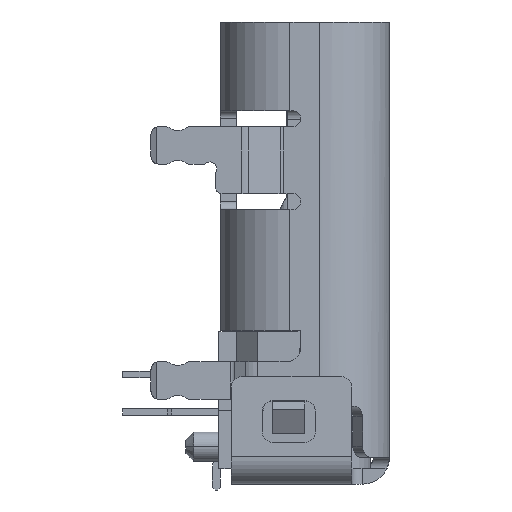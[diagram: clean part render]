
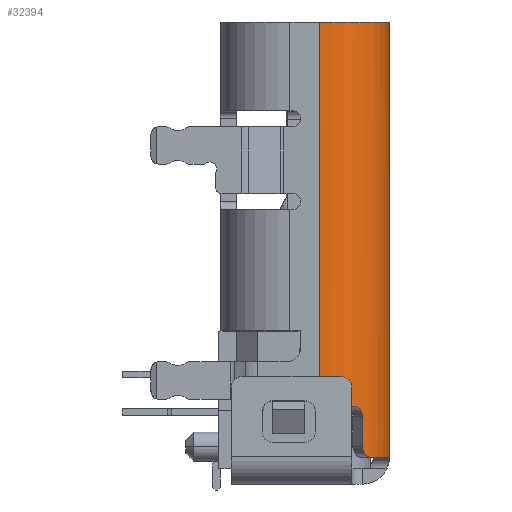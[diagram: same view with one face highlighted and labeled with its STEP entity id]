
A CAD part, left-side view. The second image highlights one B-rep face of the part: STEP entity #32394.
In plain terms, the highlighted cylindrical face has radius 1.3 mm (diameter 2.6 mm), a partial arc.
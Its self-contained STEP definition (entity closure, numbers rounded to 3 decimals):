
#6483=CARTESIAN_POINT('',(34.621,0.614,20.119));
#6484=DIRECTION('',(0.,0.,-1.));
#6485=DIRECTION('',(0.,-1.,0.));
#6486=AXIS2_PLACEMENT_3D('',#6483,#6484,#6485);
#8875=CARTESIAN_POINT('',(33.321,0.614,12.729));
#8876=CARTESIAN_POINT('',(33.321,0.614,12.747));
#8877=CARTESIAN_POINT('',(33.321,0.61,12.781));
#8878=CARTESIAN_POINT('',(33.321,0.589,12.831));
#8879=CARTESIAN_POINT('',(33.322,0.557,12.873));
#8880=CARTESIAN_POINT('',(33.325,0.515,12.905));
#8881=CARTESIAN_POINT('',(33.329,0.466,12.925));
#8882=CARTESIAN_POINT('',(33.334,0.432,12.929));
#8883=CARTESIAN_POINT('',(33.337,0.414,12.929));
#8885=CARTESIAN_POINT('',(34.621,0.614,12.929));
#8886=DIRECTION('',(0.,0.,1.));
#8887=DIRECTION('',(-0.988,-0.154,0.));
#8888=AXIS2_PLACEMENT_3D('',#8885,#8886,#8887);
#8899=DIRECTION('',(0.,0.,1.));
#8900=VECTOR('',#8899,0.549);
#8901=CARTESIAN_POINT('',(33.596,-0.186,
12.18));
#8902=LINE('',#8901,#8900);
#8903=DIRECTION('',(0.,0.,1.));
#8904=VECTOR('',#8903,7.39);
#8905=CARTESIAN_POINT('',(33.321,0.614,12.729));
#8906=LINE('',#8905,#8904);
#8907=DIRECTION('',(0.,0.,-1.));
#8908=VECTOR('',#8907,8.15);
#8909=CARTESIAN_POINT('',(34.621,-0.686,
20.119));
#8910=LINE('',#8909,#8908);
#8911=CARTESIAN_POINT('',(34.621,-0.686,
11.969));
#8912=CARTESIAN_POINT('',(34.618,-0.686,
11.968));
#8913=CARTESIAN_POINT('',(34.613,-0.686,
11.964));
#8914=CARTESIAN_POINT('',(34.605,-0.686,
11.959));
#8915=CARTESIAN_POINT('',(34.6,-0.686,
11.956));
#8916=CARTESIAN_POINT('',(34.597,-0.685,
11.954));
#8918=CARTESIAN_POINT('',(33.622,-0.217,
12.058));
#8919=CARTESIAN_POINT('',(33.62,-0.216,
12.062));
#8920=CARTESIAN_POINT('',(33.619,-0.214,
12.065));
#8921=CARTESIAN_POINT('',(33.617,-0.212,
12.069));
#8923=CARTESIAN_POINT('',(33.596,-0.186,
12.18));
#8924=CARTESIAN_POINT('',(33.596,-0.186,
12.167));
#8925=CARTESIAN_POINT('',(33.598,-0.188,
12.14));
#8926=CARTESIAN_POINT('',(33.605,-0.197,
12.103));
#8927=CARTESIAN_POINT('',(33.613,-0.206,
12.08));
#8928=CARTESIAN_POINT('',(33.617,-0.212,
12.069));
#8957=CARTESIAN_POINT('',(33.622,-0.217,
12.058));
#8958=CARTESIAN_POINT('',(33.628,-0.224,
12.045));
#8959=CARTESIAN_POINT('',(33.642,-0.241,
12.019));
#8960=CARTESIAN_POINT('',(33.669,-0.271,
11.991));
#8961=CARTESIAN_POINT('',(33.701,-0.304,
11.973));
#8962=CARTESIAN_POINT('',(33.725,-0.327,
11.969));
#8963=CARTESIAN_POINT('',(33.737,-0.339,
11.969));
#8986=CARTESIAN_POINT('',(34.621,0.614,11.969));
#8987=DIRECTION('',(0.,0.,1.));
#8988=DIRECTION('',(-0.68,-0.733,0.));
#8989=AXIS2_PLACEMENT_3D('',#8986,#8987,#8988);
#9000=CARTESIAN_POINT('',(34.521,-0.682,
11.969));
#9001=CARTESIAN_POINT('',(34.53,-0.683,
11.969));
#9002=CARTESIAN_POINT('',(34.547,-0.684,
11.968));
#9003=CARTESIAN_POINT('',(34.573,-0.685,
11.963));
#9004=CARTESIAN_POINT('',(34.589,-0.685,
11.957));
#9005=CARTESIAN_POINT('',(34.597,-0.685,
11.954));
#9007=CARTESIAN_POINT('',(34.597,-0.685,
11.954));
#10165=CARTESIAN_POINT('',(33.486,-0.019,
12.929));
#10166=CARTESIAN_POINT('',(33.494,-0.034,
12.929));
#10167=CARTESIAN_POINT('',(33.512,-0.064,
12.925));
#10168=CARTESIAN_POINT('',(33.538,-0.105,
12.905));
#10169=CARTESIAN_POINT('',(33.562,-0.14,
12.872));
#10170=CARTESIAN_POINT('',(33.581,-0.166,
12.83));
#10171=CARTESIAN_POINT('',(33.594,-0.182,
12.781));
#10172=CARTESIAN_POINT('',(33.596,-0.186,
12.746));
#10173=CARTESIAN_POINT('',(33.596,-0.186,
12.729));
#19623=VERTEX_POINT('',#9007);
#19624=VERTEX_POINT('',#8911);
#19625=CARTESIAN_POINT('',(34.521,-0.682,
11.969));
#19626=VERTEX_POINT('',#19625);
#19628=CARTESIAN_POINT('',(33.737,-0.339,
11.969));
#19630=VERTEX_POINT('',#19628);
#19632=CARTESIAN_POINT('',(33.622,-0.217,
12.058));
#19633=VERTEX_POINT('',#19632);
#19644=VERTEX_POINT('',#8923);
#19645=VERTEX_POINT('',#8928);
#19646=CARTESIAN_POINT('',(33.596,-0.186,
12.729));
#19647=VERTEX_POINT('',#19646);
#19648=VERTEX_POINT('',#10165);
#19649=CARTESIAN_POINT('',(33.337,0.414,
12.929));
#19650=VERTEX_POINT('',#19649);
#19651=VERTEX_POINT('',#8875);
#19652=CARTESIAN_POINT('',(33.321,0.614,
20.119));
#19653=VERTEX_POINT('',#19652);
#19654=CARTESIAN_POINT('',(34.621,-0.686,
20.119));
#19655=VERTEX_POINT('',#19654);
#32366=CARTESIAN_POINT('',(34.621,0.614,
10.853));
#32367=DIRECTION('',(0.,0.,1.));
#32368=DIRECTION('',(-1.,0.,0.));
#32369=AXIS2_PLACEMENT_3D('',#32366,#32367,#32368);
#32370=CYLINDRICAL_SURFACE('',#32369,1.3);
#32372=ORIENTED_EDGE('',*,*,#32371,.F.);
#32374=ORIENTED_EDGE('',*,*,#32373,.T.);
#32376=ORIENTED_EDGE('',*,*,#32375,.F.);
#32377=ORIENTED_EDGE('',*,*,#32357,.F.);
#32378=ORIENTED_EDGE('',*,*,#32346,.F.);
#32379=ORIENTED_EDGE('',*,*,#32186,.T.);
#32380=ORIENTED_EDGE('',*,*,#29457,.F.);
#32381=ORIENTED_EDGE('',*,*,#29375,.T.);
#32383=ORIENTED_EDGE('',*,*,#32382,.T.);
#32385=ORIENTED_EDGE('',*,*,#32384,.F.);
#32387=ORIENTED_EDGE('',*,*,#32386,.F.);
#32389=ORIENTED_EDGE('',*,*,#32388,.F.);
#32391=ORIENTED_EDGE('',*,*,#32390,.T.);
#32392=EDGE_LOOP('',(#32372,#32374,#32376,#32377,#32378,#32379,#32380,#32381,
#32383,#32385,#32387,#32389,#32391));
#32393=FACE_OUTER_BOUND('',#32392,.F.);
#6487=CIRCLE('',#6486,1.3);
#8884=B_SPLINE_CURVE_WITH_KNOTS('',3,(#8875,#8876,#8877,#8878,#8879,#8880,#8881,
#8882,#8883),.UNSPECIFIED.,.F.,.F.,(4,1,1,1,1,1,4),(0.,0.167,
0.333,0.5,0.667,0.833,1.),
.UNSPECIFIED.);
#8889=CIRCLE('',#8888,1.3);
#8917=B_SPLINE_CURVE_WITH_KNOTS('',3,(#8911,#8912,#8913,#8914,#8915,#8916),
.UNSPECIFIED.,.F.,.F.,(4,1,1,4),(0.,0.333,0.667,1.),
.UNSPECIFIED.);
#8922=B_SPLINE_CURVE_WITH_KNOTS('',3,(#8918,#8919,#8920,#8921),.UNSPECIFIED.,
.F.,.F.,(4,4),(0.,1.),.UNSPECIFIED.);
#8929=B_SPLINE_CURVE_WITH_KNOTS('',3,(#8923,#8924,#8925,#8926,#8927,#8928),
.UNSPECIFIED.,.F.,.F.,(4,1,1,4),(0.,0.333,0.667,1.),
.UNSPECIFIED.);
#8964=B_SPLINE_CURVE_WITH_KNOTS('',3,(#8957,#8958,#8959,#8960,#8961,#8962,
#8963),.UNSPECIFIED.,.F.,.F.,(4,1,1,1,4),(0.,0.25,0.5,0.75,1.),
.UNSPECIFIED.);
#8990=CIRCLE('',#8989,1.3);
#9006=B_SPLINE_CURVE_WITH_KNOTS('',3,(#9000,#9001,#9002,#9003,#9004,#9005),
.UNSPECIFIED.,.F.,.F.,(4,1,1,4),(0.,0.333,0.667,1.),
.UNSPECIFIED.);
#10174=B_SPLINE_CURVE_WITH_KNOTS('',3,(#10165,#10166,#10167,#10168,#10169,
#10170,#10171,#10172,#10173),.UNSPECIFIED.,.F.,.F.,(4,1,1,1,1,1,4),(0.,
0.167,0.333,0.5,0.667,0.833,
1.),.UNSPECIFIED.);
#29375=EDGE_CURVE('',#19655,#19624,#8910,.T.);
#29457=EDGE_CURVE('',#19655,#19653,#6487,.T.);
#32186=EDGE_CURVE('',#19651,#19653,#8906,.T.);
#32346=EDGE_CURVE('',#19651,#19650,#8884,.T.);
#32357=EDGE_CURVE('',#19650,#19648,#8889,.T.);
#32371=EDGE_CURVE('',#19644,#19645,#8929,.T.);
#32373=EDGE_CURVE('',#19644,#19647,#8902,.T.);
#32375=EDGE_CURVE('',#19648,#19647,#10174,.T.);
#32382=EDGE_CURVE('',#19624,#19623,#8917,.T.);
#32384=EDGE_CURVE('',#19626,#19623,#9006,.T.);
#32386=EDGE_CURVE('',#19630,#19626,#8990,.T.);
#32388=EDGE_CURVE('',#19633,#19630,#8964,.T.);
#32390=EDGE_CURVE('',#19633,#19645,#8922,.T.);
#32394=ADVANCED_FACE('',(#32393),#32370,.T.);
